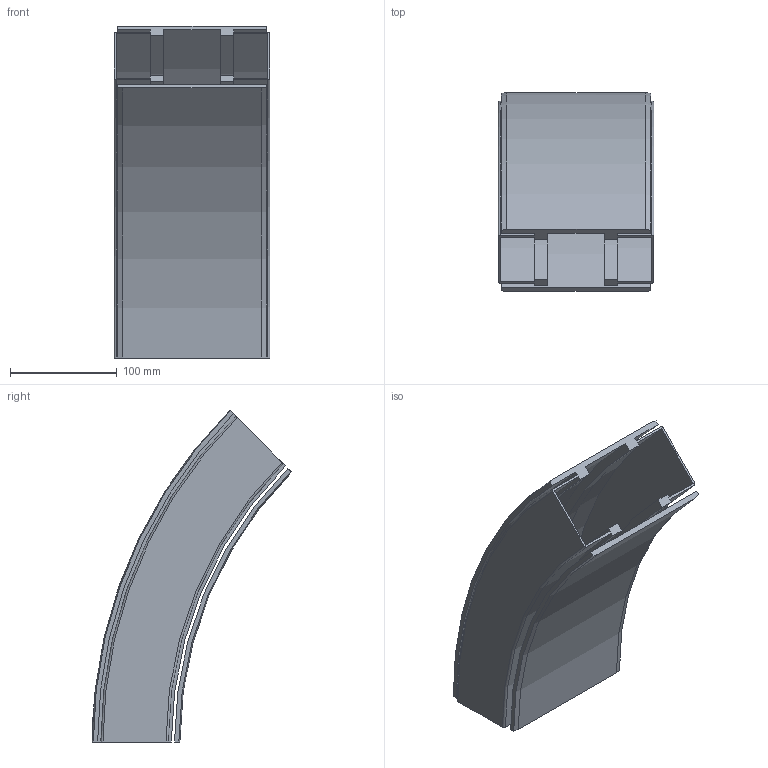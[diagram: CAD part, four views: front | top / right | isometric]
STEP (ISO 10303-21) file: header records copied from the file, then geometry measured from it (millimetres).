
FILE_DESCRIPTION((''),'2;1');
FILE_NAME('C:\Vault Klient\Projekt\Koncept konstruktion\Serie 540 Balk\540-5620_DOWN.stp','2010-11-25T11:15:17',('Mathias'),(''),'Autodesk Inventor 2011','Autodesk Inventor 2011','');
FILE_SCHEMA(('AUTOMOTIVE_DESIGN { 1 0 10303 214 1 1 1 1 }'));
Length unit declared in the file: millimetre
Products named in the file (1): 540-5620_DOWN
Bounding box: 146 x 186.71 x 310.77 mm (x, y, z)
Volume: 719149.8 mm3; surface area: 375457.8 mm2
Topology: 2 solids, 2 shells, 87 faces, 234 edges, 156 vertices
Faces by surface type: plane 38, cylinder 25, bspline 14, cone 6, torus 4
Entity records: 3154 total; most frequent: CARTESIAN_POINT 916, ORIENTED_EDGE 468, DIRECTION 428, EDGE_CURVE 234, VERTEX_POINT 156, AXIS2_PLACEMENT_3D 148, VECTOR 132, LINE 132
